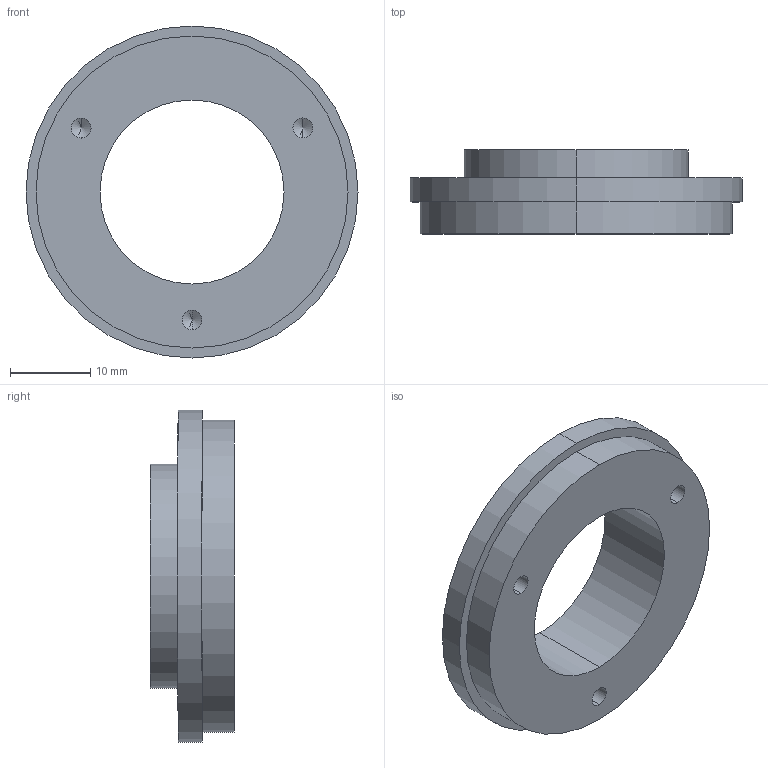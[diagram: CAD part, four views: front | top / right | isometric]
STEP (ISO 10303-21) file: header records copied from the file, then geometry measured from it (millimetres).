
FILE_DESCRIPTION (( 'STEP AP203' ), '1' );
FILE_NAME ('048218-C.STEP', '2025-05-07T10:37:54', ( '' ), ( '' ), 'SwSTEP 2.0', 'SolidWorks 2024', '' );
FILE_SCHEMA (( 'CONFIG_CONTROL_DESIGN' ));
Length unit declared in the file: millimetre
Products named in the file (1): 048218-C
Bounding box: 41.5 x 10.5 x 41.5 mm (x, y, z)
Volume: 6557.3 mm3; surface area: 3938.1 mm2
Topology: 1 solids, 1 shells, 106 faces, 276 edges, 179 vertices
Faces by surface type: plane 58, bspline 28, cylinder 14, cone 6
Entity records: 4751 total; most frequent: CARTESIAN_POINT 2264, ORIENTED_EDGE 540, DIRECTION 400, EDGE_CURVE 270, LINE 186, VECTOR 186, VERTEX_POINT 179, EDGE_LOOP 121
